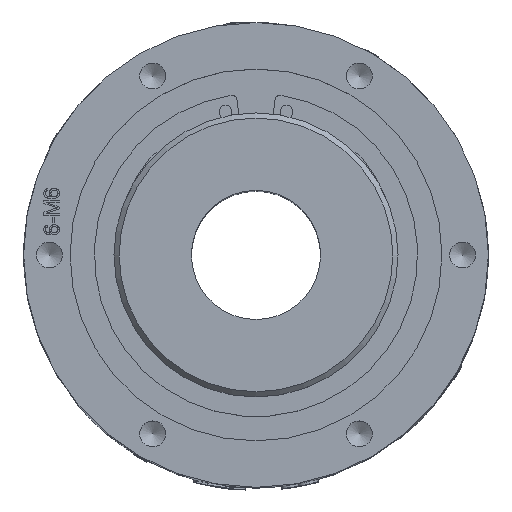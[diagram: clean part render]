
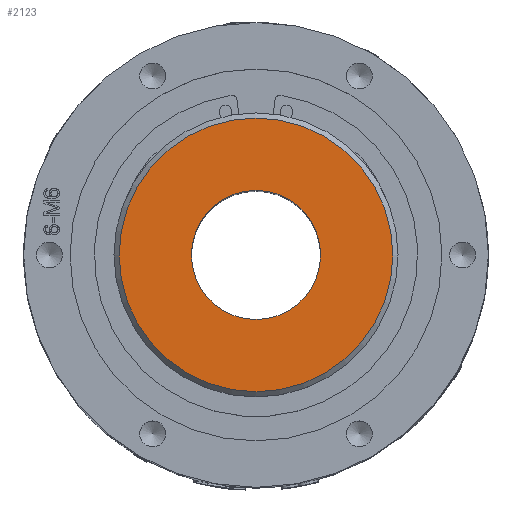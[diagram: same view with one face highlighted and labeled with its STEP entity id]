
A CAD part, top view. The second image highlights one B-rep face of the part: STEP entity #2123.
In plain terms, the highlighted planar face has unit normal (0, 0, 1).
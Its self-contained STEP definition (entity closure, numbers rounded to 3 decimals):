
#294=FACE_BOUND('',#6699,.T.);
#295=FACE_BOUND('',#6700,.T.);
#646=CIRCLE('',#24852,26.5);
#647=CIRCLE('',#24854,12.5);
#1028=PLANE('',#24855);
#2123=ADVANCED_FACE('',(#294,#295),#1028,.T.);
#6699=EDGE_LOOP('',(#9388));
#6700=EDGE_LOOP('',(#9389));
#9388=ORIENTED_EDGE('',*,*,#18358,.F.);
#9389=ORIENTED_EDGE('',*,*,#18357,.T.);
#15685=VERTEX_POINT('',#47774);
#15686=VERTEX_POINT('',#47777);
#18357=EDGE_CURVE('',#15685,#15685,#646,.T.);
#18358=EDGE_CURVE('',#15686,#15686,#647,.T.);
#24852=AXIS2_PLACEMENT_3D('',#47773,#26334,#26335);
#24854=AXIS2_PLACEMENT_3D('',#47776,#26338,#26339);
#24855=AXIS2_PLACEMENT_3D('',#47778,#26340,#26341);
#26334=DIRECTION('',(0.,0.,1.));
#26335=DIRECTION('',(1.,0.,0.));
#26338=DIRECTION('',(0.,0.,1.));
#26339=DIRECTION('',(1.,0.,0.));
#26340=DIRECTION('',(0.,0.,1.));
#26341=DIRECTION('',(1.,0.,0.));
#47773=CARTESIAN_POINT('',(0.,0.,108.));
#47774=CARTESIAN_POINT('',(26.5,0.,108.));
#47776=CARTESIAN_POINT('',(0.,0.,108.));
#47777=CARTESIAN_POINT('',(12.5,0.,108.));
#47778=CARTESIAN_POINT('',(0.,0.,108.));
